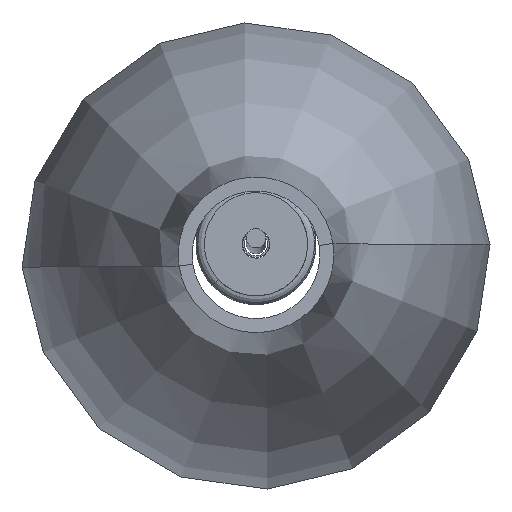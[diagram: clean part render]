
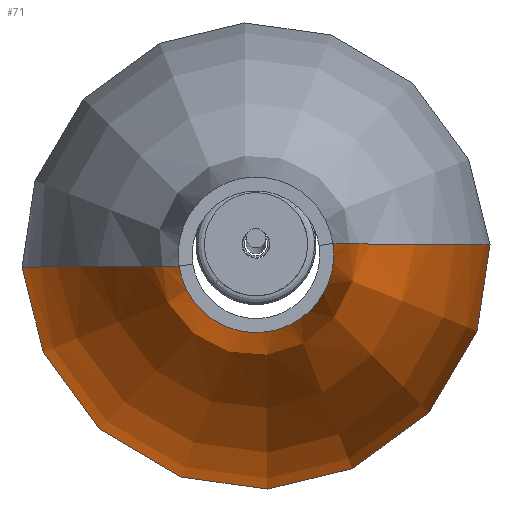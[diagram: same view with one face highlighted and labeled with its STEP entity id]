
A CAD part, top view. The second image highlights one B-rep face of the part: STEP entity #71.
In plain terms, the highlighted free-form (B-spline) face has degree [3, 2] with [12, 5] control points.
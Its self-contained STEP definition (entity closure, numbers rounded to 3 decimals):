
#71=ADVANCED_FACE('',(#102),#435,.T.);
#102=FACE_OUTER_BOUND('',#136,.T.);
#136=EDGE_LOOP('',(#219,#220,#221,#222));
#219=ORIENTED_EDGE('',*,*,#306,.T.);
#220=ORIENTED_EDGE('',*,*,#305,.F.);
#221=ORIENTED_EDGE('',*,*,#304,.F.);
#222=ORIENTED_EDGE('',*,*,#307,.F.);
#304=EDGE_CURVE('',#399,#400,#358,.T.);
#305=EDGE_CURVE('',#400,#402,#359,.T.);
#306=EDGE_CURVE('',#401,#402,#360,.T.);
#307=EDGE_CURVE('',#401,#399,#361,.T.);
#358=(
BOUNDED_CURVE()
B_SPLINE_CURVE(3,(#2105,#2106,#2107,#2108,#2109,#2110,#2111,#2112,#2113,
#2114,#2115,#2116),.UNSPECIFIED.,.F.,.F.)
B_SPLINE_CURVE_WITH_KNOTS((4,1,1,1,1,1,1,1,1,4),(0.,39.831,79.663,
119.494,159.326,199.157,238.989,278.82,
318.652,358.483),.UNSPECIFIED.)
CURVE()
GEOMETRIC_REPRESENTATION_ITEM()
RATIONAL_B_SPLINE_CURVE((1.,1.,1.,1.,1.,1.,1.,1.,1.,1.,1.,1.))
REPRESENTATION_ITEM('')
);
#359=(
BOUNDED_CURVE()
B_SPLINE_CURVE(2,(#2117,#2118,#2119,#2120,#2121),.UNSPECIFIED.,.F.,.F.)
B_SPLINE_CURVE_WITH_KNOTS((3,2,3),(-527.827,-395.87,
-263.913),.UNSPECIFIED.)
CURVE()
GEOMETRIC_REPRESENTATION_ITEM()
RATIONAL_B_SPLINE_CURVE((1.,0.707,1.,0.707,1.))
REPRESENTATION_ITEM('')
);
#360=(
BOUNDED_CURVE()
B_SPLINE_CURVE(3,(#2122,#2123,#2124,#2125,#2126,#2127,#2128,#2129,#2130,
#2131,#2132,#2133),.UNSPECIFIED.,.F.,.F.)
B_SPLINE_CURVE_WITH_KNOTS((4,1,1,1,1,1,1,1,1,4),(0.,39.831,79.663,
119.494,159.326,199.157,238.989,278.82,
318.652,358.483),.UNSPECIFIED.)
CURVE()
GEOMETRIC_REPRESENTATION_ITEM()
RATIONAL_B_SPLINE_CURVE((1.,1.,1.,1.,1.,1.,1.,1.,1.,1.,1.,1.))
REPRESENTATION_ITEM('')
);
#361=(
BOUNDED_CURVE()
B_SPLINE_CURVE(2,(#2134,#2135,#2136,#2137,#2138),.UNSPECIFIED.,.F.,.F.)
B_SPLINE_CURVE_WITH_KNOTS((3,2,3),(263.913,395.87,527.827),
 .UNSPECIFIED.)
CURVE()
GEOMETRIC_REPRESENTATION_ITEM()
RATIONAL_B_SPLINE_CURVE((1.,0.707,1.,0.707,1.))
REPRESENTATION_ITEM('')
);
#399=VERTEX_POINT('',#2092);
#400=VERTEX_POINT('',#2093);
#401=VERTEX_POINT('',#2094);
#402=VERTEX_POINT('',#2095);
#435=(
BOUNDED_SURFACE()
B_SPLINE_SURFACE(3,2,((#1212,#1213,#1214,#1215,#1216),(#1217,#1218,#1219,
#1220,#1221),(#1222,#1223,#1224,#1225,#1226),(#1227,#1228,#1229,#1230,#1231),
(#1232,#1233,#1234,#1235,#1236),(#1237,#1238,#1239,#1240,#1241),(#1242,
#1243,#1244,#1245,#1246),(#1247,#1248,#1249,#1250,#1251),(#1252,#1253,#1254,
#1255,#1256),(#1257,#1258,#1259,#1260,#1261),(#1262,#1263,#1264,#1265,#1266),
(#1267,#1268,#1269,#1270,#1271)),.UNSPECIFIED.,.F.,.F.,.F.)
B_SPLINE_SURFACE_WITH_KNOTS((4,1,1,1,1,1,1,1,1,4),(3,2,3),(0.,39.831,
79.663,119.494,159.326,199.157,238.989,
278.82,318.652,358.483),(0.,168.416,
336.832),.UNSPECIFIED.)
GEOMETRIC_REPRESENTATION_ITEM()
RATIONAL_B_SPLINE_SURFACE(((1.,0.707,1.,0.707,1.),
(1.,0.707,1.,0.707,1.),(1.,0.707,1.,
0.707,1.),(1.,0.707,1.,0.707,1.),(1.,
0.707,1.,0.707,1.),(1.,0.707,1.,0.707,
1.),(1.,0.707,1.,0.707,1.),(1.,0.707,
1.,0.707,1.),(1.,0.707,1.,0.707,1.),
(1.,0.707,1.,0.707,1.),(1.,0.707,1.,
0.707,1.),(1.,0.707,1.,0.707,1.)))
REPRESENTATION_ITEM('')
SURFACE()
);
#1212=CARTESIAN_POINT('',(1581.608,-4.049,200.));
#1213=CARTESIAN_POINT('',(1585.657,-31.6,200.));
#1214=CARTESIAN_POINT('',(1613.208,-27.551,200.));
#1215=CARTESIAN_POINT('',(1640.759,-23.502,200.));
#1216=CARTESIAN_POINT('',(1636.711,4.049,200.));
#1217=CARTESIAN_POINT('',(1580.347,-4.049,145.273));
#1218=CARTESIAN_POINT('',(1584.396,-32.861,145.273));
#1219=CARTESIAN_POINT('',(1613.208,-28.812,145.273));
#1220=CARTESIAN_POINT('',(1642.021,-24.763,145.273));
#1221=CARTESIAN_POINT('',(1637.972,4.049,145.273));
#1222=CARTESIAN_POINT('',(1576.397,-4.049,99.022));
#1223=CARTESIAN_POINT('',(1580.446,-36.812,99.022));
#1224=CARTESIAN_POINT('',(1613.208,-32.763,99.022));
#1225=CARTESIAN_POINT('',(1645.971,-28.714,99.022));
#1226=CARTESIAN_POINT('',(1641.922,4.049,99.022));
#1227=CARTESIAN_POINT('',(1553.326,-4.049,82.789));
#1228=CARTESIAN_POINT('',(1557.375,-59.882,82.789));
#1229=CARTESIAN_POINT('',(1613.208,-55.833,82.789));
#1230=CARTESIAN_POINT('',(1669.042,-51.784,82.789));
#1231=CARTESIAN_POINT('',(1664.993,4.049,82.789));
#1232=CARTESIAN_POINT('',(1537.506,-4.049,43.308));
#1233=CARTESIAN_POINT('',(1541.555,-75.702,43.308));
#1234=CARTESIAN_POINT('',(1613.208,-71.653,43.308));
#1235=CARTESIAN_POINT('',(1684.862,-67.605,43.308));
#1236=CARTESIAN_POINT('',(1680.813,4.049,43.308));
#1237=CARTESIAN_POINT('',(1528.422,-4.049,6.428));
#1238=CARTESIAN_POINT('',(1532.471,-84.787,6.428));
#1239=CARTESIAN_POINT('',(1613.208,-80.738,6.428));
#1240=CARTESIAN_POINT('',(1693.946,-76.689,6.428));
#1241=CARTESIAN_POINT('',(1689.897,4.049,6.428));
#1242=CARTESIAN_POINT('',(1525.076,-4.049,-44.783));
#1243=CARTESIAN_POINT('',(1529.125,-88.132,-44.783));
#1244=CARTESIAN_POINT('',(1613.208,-84.083,-44.783));
#1245=CARTESIAN_POINT('',(1697.292,-80.035,-44.783));
#1246=CARTESIAN_POINT('',(1693.243,4.049,-44.783));
#1247=CARTESIAN_POINT('',(1525.049,-4.049,-100.932));
#1248=CARTESIAN_POINT('',(1529.098,-88.16,-100.932));
#1249=CARTESIAN_POINT('',(1613.208,-84.111,-100.932));
#1250=CARTESIAN_POINT('',(1697.319,-80.062,-100.932));
#1251=CARTESIAN_POINT('',(1693.27,4.049,-100.932));
#1252=CARTESIAN_POINT('',(1530.948,-4.049,-136.159));
#1253=CARTESIAN_POINT('',(1534.997,-82.26,-136.159));
#1254=CARTESIAN_POINT('',(1613.208,-78.211,-136.159));
#1255=CARTESIAN_POINT('',(1691.42,-74.163,-136.159));
#1256=CARTESIAN_POINT('',(1687.371,4.049,-136.159));
#1257=CARTESIAN_POINT('',(1539.348,-4.049,-161.115));
#1258=CARTESIAN_POINT('',(1543.397,-73.861,-161.115));
#1259=CARTESIAN_POINT('',(1613.208,-69.812,-161.115));
#1260=CARTESIAN_POINT('',(1683.02,-65.763,-161.115));
#1261=CARTESIAN_POINT('',(1678.971,4.049,-161.115));
#1262=CARTESIAN_POINT('',(1551.172,-4.049,-175.232));
#1263=CARTESIAN_POINT('',(1555.221,-62.036,-175.232));
#1264=CARTESIAN_POINT('',(1613.208,-57.987,-175.232));
#1265=CARTESIAN_POINT('',(1671.196,-53.938,-175.232));
#1266=CARTESIAN_POINT('',(1667.147,4.049,-175.232));
#1267=CARTESIAN_POINT('',(1565.96,-4.049,-183.573));
#1268=CARTESIAN_POINT('',(1570.008,-47.249,-183.573));
#1269=CARTESIAN_POINT('',(1613.208,-43.2,-183.573));
#1270=CARTESIAN_POINT('',(1656.408,-39.151,-183.573));
#1271=CARTESIAN_POINT('',(1652.359,4.049,-183.573));
#2092=CARTESIAN_POINT('',(1636.711,4.049,200.));
#2093=CARTESIAN_POINT('',(1652.359,4.049,-183.573));
#2094=CARTESIAN_POINT('',(1581.608,-4.049,200.));
#2095=CARTESIAN_POINT('',(1565.96,-4.049,-183.573));
#2105=CARTESIAN_POINT('',(1636.711,4.049,200.));
#2106=CARTESIAN_POINT('',(1637.972,4.049,145.273));
#2107=CARTESIAN_POINT('',(1641.922,4.049,99.022));
#2108=CARTESIAN_POINT('',(1664.993,4.049,82.789));
#2109=CARTESIAN_POINT('',(1680.813,4.049,43.308));
#2110=CARTESIAN_POINT('',(1689.897,4.049,6.428));
#2111=CARTESIAN_POINT('',(1693.243,4.049,-44.783));
#2112=CARTESIAN_POINT('',(1693.27,4.049,-100.932));
#2113=CARTESIAN_POINT('',(1687.371,4.049,-136.159));
#2114=CARTESIAN_POINT('',(1678.971,4.049,-161.115));
#2115=CARTESIAN_POINT('',(1667.147,4.049,-175.232));
#2116=CARTESIAN_POINT('',(1652.359,4.049,-183.573));
#2117=CARTESIAN_POINT('',(1652.359,4.049,-183.573));
#2118=CARTESIAN_POINT('',(1656.408,-39.151,-183.573));
#2119=CARTESIAN_POINT('',(1613.208,-43.2,-183.573));
#2120=CARTESIAN_POINT('',(1570.008,-47.249,-183.573));
#2121=CARTESIAN_POINT('',(1565.96,-4.049,-183.573));
#2122=CARTESIAN_POINT('',(1581.608,-4.049,200.));
#2123=CARTESIAN_POINT('',(1580.347,-4.049,145.273));
#2124=CARTESIAN_POINT('',(1576.397,-4.049,99.022));
#2125=CARTESIAN_POINT('',(1553.326,-4.049,82.789));
#2126=CARTESIAN_POINT('',(1537.506,-4.049,43.308));
#2127=CARTESIAN_POINT('',(1528.422,-4.049,6.428));
#2128=CARTESIAN_POINT('',(1525.076,-4.049,-44.783));
#2129=CARTESIAN_POINT('',(1525.049,-4.049,-100.932));
#2130=CARTESIAN_POINT('',(1530.948,-4.049,-136.159));
#2131=CARTESIAN_POINT('',(1539.348,-4.049,-161.115));
#2132=CARTESIAN_POINT('',(1551.172,-4.049,-175.232));
#2133=CARTESIAN_POINT('',(1565.96,-4.049,-183.573));
#2134=CARTESIAN_POINT('',(1581.608,-4.049,200.));
#2135=CARTESIAN_POINT('',(1585.657,-31.6,200.));
#2136=CARTESIAN_POINT('',(1613.208,-27.551,200.));
#2137=CARTESIAN_POINT('',(1640.759,-23.502,200.));
#2138=CARTESIAN_POINT('',(1636.711,4.049,200.));
